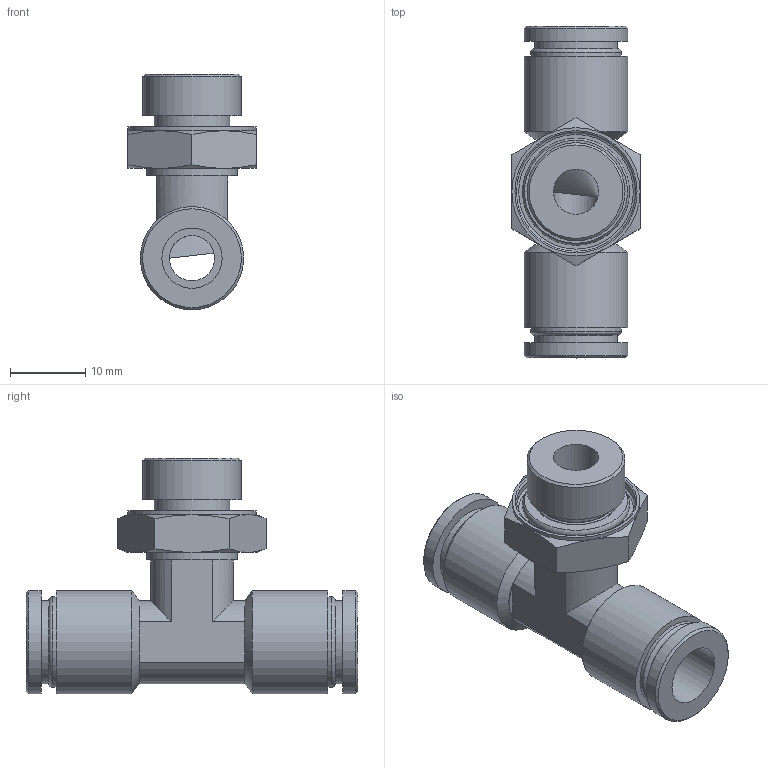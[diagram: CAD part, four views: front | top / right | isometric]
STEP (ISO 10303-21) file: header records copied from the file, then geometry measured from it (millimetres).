
FILE_DESCRIPTION(/* description */ (''),/* implementation_level */ '2;1');
FILE_NAME(/* name */ 'LXH38 0008 B2.stp',/* time_stamp */ '2026-04-24T19:05:45+02:00',/* author */ ('freju'),/* organization */ (''),/* preprocessor_version */ 'ST-DEVELOPER v20.1',/* originating_system */ 'Autodesk Inventor 2026',/* authorisation */ '');
FILE_SCHEMA (('AUTOMOTIVE_DESIGN { 1 0 10303 214 3 1 1 }'));
Length unit declared in the file: millimetre
Products named in the file (4): LXH38 0008 B2; LXH38 0008 B2_1; O-Ring; ISO 3601-1 - A 0106 G
Assembly tree (3 placements, depth 3):
  LXH38 0008 B2
    LXH38 0008 B2_1
    O-Ring
      ISO 3601-1 - A 0106 G
Bounding box: 17 x 44 x 31.25 mm (x, y, z)
Volume: 5635.2 mm3; surface area: 5173.6 mm2
Topology: 2 solids, 2 shells, 81 faces, 174 edges, 108 vertices
Faces by surface type: plane 29, cylinder 27, cone 17, torus 8
Full cylindrical faces by diameter (mm): 6 x2, 8 x2, 10 x1, 10.6 x1, 11 x2, 12 x3, 13 x1, 13.7 x4, 15.8 x1, 17 x1
Entity records: 2342 total; most frequent: DIRECTION 422, CARTESIAN_POINT 418, ORIENTED_EDGE 348, AXIS2_PLACEMENT_3D 184, EDGE_CURVE 174, VERTEX_POINT 108, EDGE_LOOP 98, CIRCLE 92
